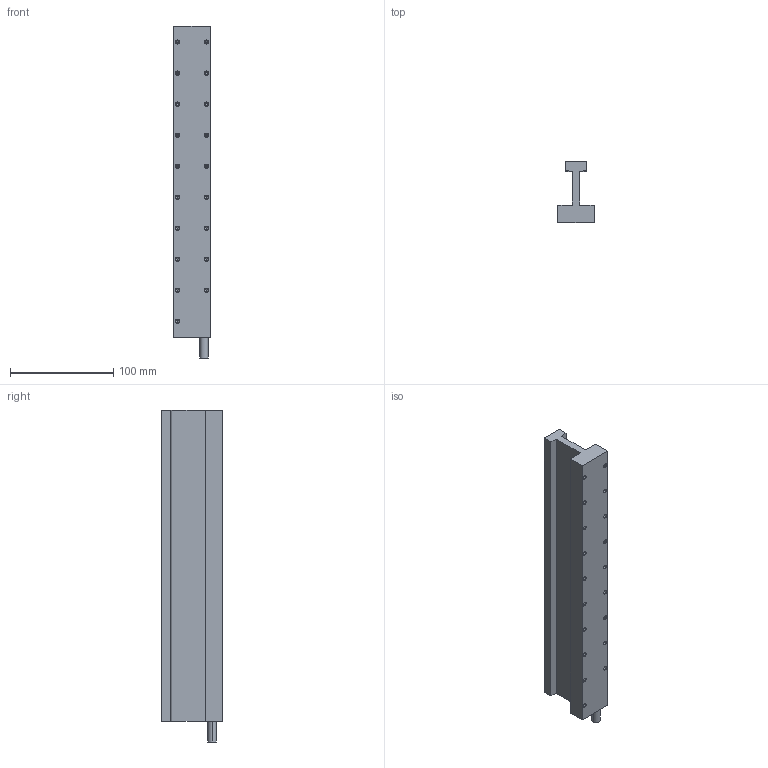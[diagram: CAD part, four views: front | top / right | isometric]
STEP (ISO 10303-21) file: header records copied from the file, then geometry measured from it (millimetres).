
FILE_DESCRIPTION (( 'STEP AP214' ), '1' );
FILE_NAME ('JKA35.STEP', '2025-09-05T12:44:12', ( '' ), ( '' ), 'SwSTEP 2.0', 'SolidWorks 2016', '' );
FILE_SCHEMA (( 'AUTOMOTIVE_DESIGN' ));
Length unit declared in the file: millimetre
Products named in the file (1): JKA35
Bounding box: 35 x 58.8 x 321 mm (x, y, z)
Volume: 301976.2 mm3; surface area: 69128.3 mm2
Topology: 1 solids, 1 shells, 131 faces, 308 edges, 161 vertices
Faces by surface type: cone 76, cylinder 40, plane 15
Entity records: 3878 total; most frequent: DIRECTION 652, CARTESIAN_POINT 563, ORIENTED_EDGE 540, EDGE_CURVE 270, AXIS2_PLACEMENT_3D 250, VERTEX_POINT 161, VECTOR 152, LINE 152
